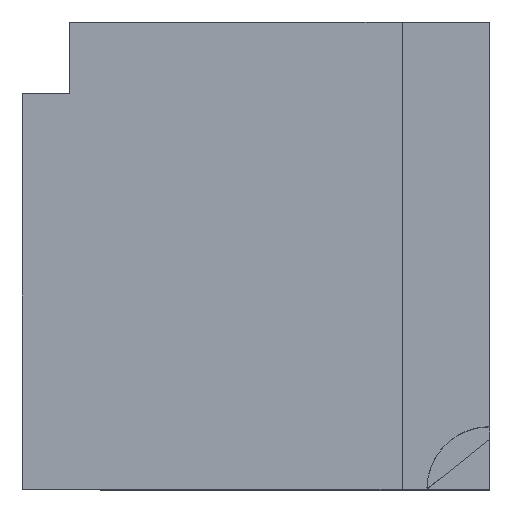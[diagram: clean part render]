
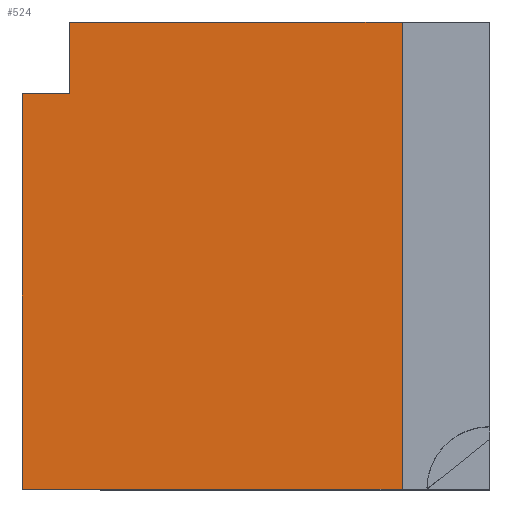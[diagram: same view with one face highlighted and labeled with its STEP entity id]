
A CAD part, top view. The second image highlights one B-rep face of the part: STEP entity #524.
In plain terms, the highlighted planar face has unit normal (0, 0, 1).
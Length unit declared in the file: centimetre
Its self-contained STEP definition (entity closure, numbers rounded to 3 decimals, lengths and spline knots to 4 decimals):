
#28 = VERTEX_POINT ( 'NONE', #237 ) ;
#35 = LINE ( 'NONE', #900, #340 ) ;
#43 = FACE_OUTER_BOUND ( 'NONE', #444, .T. ) ;
#45 = LINE ( 'NONE', #561, #118 ) ;
#55 = CARTESIAN_POINT ( 'NONE',  ( 0., 846.6688, 1000. ) ) ;
#72 = CARTESIAN_POINT ( 'NONE',  ( 0., 1000., 1000. ) ) ;
#76 = CARTESIAN_POINT ( 'NONE',  ( 812.4968, 1000., 1000. ) ) ;
#82 = VERTEX_POINT ( 'NONE', #706 ) ;
#88 = VECTOR ( 'NONE', #645, 100. ) ;
#104 = CARTESIAN_POINT ( 'NONE',  ( 0., 0., 1000. ) ) ;
#109 = ORIENTED_EDGE ( 'NONE', *, *, #282, .F. ) ;
#115 = CARTESIAN_POINT ( 'NONE',  ( 812.4968, 0., 1000. ) ) ;
#118 = VECTOR ( 'NONE', #569, 100. ) ;
#131 = CARTESIAN_POINT ( 'NONE',  ( 101.3109, 1000., 1000. ) ) ;
#199 = EDGE_CURVE ( 'NONE', #28, #898, #45, .T. ) ;
#205 = LINE ( 'NONE', #695, #865 ) ;
#216 = LINE ( 'NONE', #72, #308 ) ;
#237 = CARTESIAN_POINT ( 'NONE',  ( 101.3109, 846.6688, 1000. ) ) ;
#242 = VERTEX_POINT ( 'NONE', #115 ) ;
#245 = DIRECTION ( 'NONE',  ( 0., -1., 0. ) ) ;
#282 = EDGE_CURVE ( 'NONE', #840, #28, #941, .T. ) ;
#284 = CARTESIAN_POINT ( 'NONE',  ( 0., 846.6688, 1000. ) ) ;
#302 = EDGE_CURVE ( 'NONE', #749, #898, #216, .T. ) ;
#308 = VECTOR ( 'NONE', #366, 100. ) ;
#340 = VECTOR ( 'NONE', #245, 100. ) ;
#366 = DIRECTION ( 'NONE',  ( -1., 0., 0. ) ) ;
#373 = ORIENTED_EDGE ( 'NONE', *, *, #508, .T. ) ;
#389 = ORIENTED_EDGE ( 'NONE', *, *, #199, .F. ) ;
#401 = ORIENTED_EDGE ( 'NONE', *, *, #710, .T. ) ;
#444 = EDGE_LOOP ( 'NONE', ( #826, #886, #389, #109, #373, #401 ) ) ;
#465 = DIRECTION ( 'NONE',  ( 1., 0., 0. ) ) ;
#477 = DIRECTION ( 'NONE',  ( 0., 0., 1. ) ) ;
#508 = EDGE_CURVE ( 'NONE', #840, #82, #35, .T. ) ;
#519 = AXIS2_PLACEMENT_3D ( 'NONE', #104, #477, #465 ) ;
#524 = ADVANCED_FACE ( 'NONE', ( #43 ), #539, .T. ) ;
#539 = PLANE ( 'NONE',  #519 ) ;
#561 = CARTESIAN_POINT ( 'NONE',  ( 101.3109, 846.6688, 1000. ) ) ;
#564 = CARTESIAN_POINT ( 'NONE',  ( 0., 0., 1000. ) ) ;
#569 = DIRECTION ( 'NONE',  ( 0., 1., 0. ) ) ;
#641 = LINE ( 'NONE', #564, #88 ) ;
#645 = DIRECTION ( 'NONE',  ( 1., 0., 0. ) ) ;
#692 = VECTOR ( 'NONE', #863, 100. ) ;
#695 = CARTESIAN_POINT ( 'NONE',  ( 812.4968, 0., 1000. ) ) ;
#706 = CARTESIAN_POINT ( 'NONE',  ( 0., 0., 1000. ) ) ;
#710 = EDGE_CURVE ( 'NONE', #82, #242, #641, .T. ) ;
#749 = VERTEX_POINT ( 'NONE', #76 ) ;
#781 = DIRECTION ( 'NONE',  ( 0., 1., 0. ) ) ;
#826 = ORIENTED_EDGE ( 'NONE', *, *, #869, .T. ) ;
#840 = VERTEX_POINT ( 'NONE', #55 ) ;
#863 = DIRECTION ( 'NONE',  ( 1., 0., 0. ) ) ;
#865 = VECTOR ( 'NONE', #781, 100. ) ;
#869 = EDGE_CURVE ( 'NONE', #242, #749, #205, .T. ) ;
#886 = ORIENTED_EDGE ( 'NONE', *, *, #302, .T. ) ;
#898 = VERTEX_POINT ( 'NONE', #131 ) ;
#900 = CARTESIAN_POINT ( 'NONE',  ( 0., 1000., 1000. ) ) ;
#941 = LINE ( 'NONE', #284, #692 ) ;
